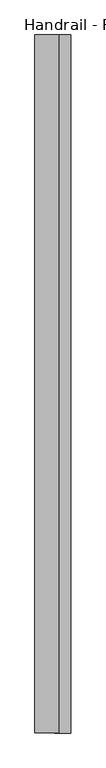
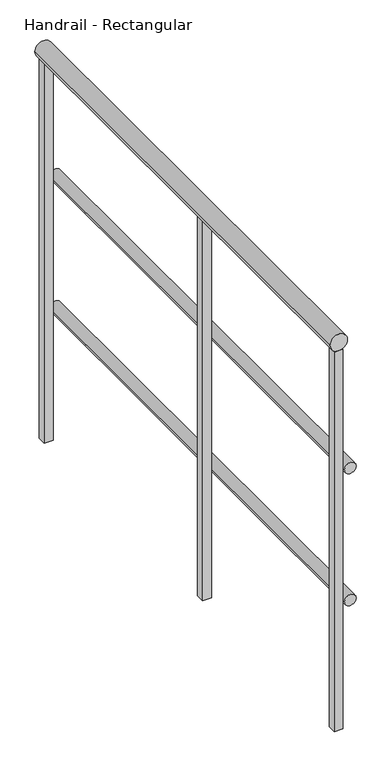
"""IFC4 building model written with IfcOpenShell, lengths in millimetres: railing geometry, Handrail - Rectangular."""

from ifc_helpers import new_model, si_unit, point, frame, frame_2d, origin, place, context, project, spatial, polyline, circle_curve, trimmed, segment, composite_curve, outline, extrude, source, transform, mapped, element, save


def handrail_rectangular_2b1cd781(model_context):
    return source(origin(), model_context, "Body", "SweptSolid", [
        extrude(outline(composite_curve([segment(trimmed(circle_curve(frame_2d((9740.9, -11393.4589563)), 12.7), [point((9740.9, -11380.7589563))], [point((9740.9, -11406.1589563))], False, "CARTESIAN"), True, "CONTINUOUS"), segment(trimmed(circle_curve(frame_2d((9740.9, -11393.4589563)), 12.7), [point((9740.9, -11406.1589563))], [point((9740.9, -11380.7589563))], False, "CARTESIAN"), True, "CONTINUOUS")], self_intersect=False)), frame((0.0, 10624.0316867, 0.0), z_axis=(0.0, 1.0, 0.0), x_axis=(0.0, 0.0, 1.0)), (0.0, 0.0, 1.0), 1117.6),
        extrude(outline(composite_curve([segment(trimmed(circle_curve(frame_2d((9436.1, -11393.4589563)), 12.7), [point((9436.1, -11380.7589563))], [point((9436.1, -11406.1589563))], False, "CARTESIAN"), True, "CONTINUOUS"), segment(trimmed(circle_curve(frame_2d((9436.1, -11393.4589563)), 12.7), [point((9436.1, -11406.1589563))], [point((9436.1, -11380.7589563))], False, "CARTESIAN"), True, "CONTINUOUS")], self_intersect=False)), frame((0.0, 10624.0316867, 0.0), z_axis=(0.0, 1.0, 0.0), x_axis=(0.0, 0.0, 1.0)), (0.0, 0.0, 1.0), 1117.6),
        extrude(outline(composite_curve([segment(trimmed(circle_curve(frame_2d((10039.35, -11418.8589563)), 19.05), [point((10039.35, -11399.8089563))], [point((10039.35, -11437.9089563))], False, "CARTESIAN"), True, "CONTINUOUS"), segment(trimmed(circle_curve(frame_2d((10039.35, -11418.8589563)), 19.05), [point((10039.35, -11437.9089563))], [point((10039.35, -11399.8089563))], False, "CARTESIAN"), True, "CONTINUOUS")], self_intersect=False)), frame((0.0, 10624.0316867, 0.0), z_axis=(0.0, 1.0, 0.0), x_axis=(0.0, 0.0, 1.0)), (0.0, 0.0, 1.0), 1117.6),
        extrude(outline(polyline([(-11428.3839563, 11141.5566867), (-11409.3339563, 11141.5566867), (-11409.3339563, 11122.5066867), (-11428.3839563, 11122.5066867), (-11428.3839563, 11141.5566867)])), frame((0.0, 0.0, 9144.0), z_axis=(0.0, 0.0, 1.0), x_axis=(1.0, 0.0, 0.0)), (0.0, 0.0, 1.0), 876.3),
        extrude(outline(polyline([(-11428.3839563, 10643.0816867), (-11409.3339563, 10643.0816867), (-11409.3339563, 10624.0316867), (-11428.3839563, 10624.0316867), (-11428.3839563, 10643.0816867)])), frame((0.0, 0.0, 9144.0), z_axis=(0.0, 0.0, 1.0), x_axis=(1.0, 0.0, 0.0)), (0.0, 0.0, 1.0), 876.3),
        extrude(outline(polyline([(-11428.3839563, 11741.6316867), (-11409.3339563, 11741.6316867), (-11409.3339563, 11722.5816867), (-11428.3839563, 11722.5816867), (-11428.3839563, 11741.6316867)])), frame((0.0, 0.0, 9144.0), z_axis=(0.0, 0.0, 1.0), x_axis=(1.0, 0.0, 0.0)), (0.0, 0.0, 1.0), 876.3),
    ])


if __name__ == "__main__":
    model = new_model("IFC4")
    model_context = context("Model", 3, world=origin())
    ifc_project = project(units=[si_unit("LENGTHUNIT", "METRE", prefix="MILLI")], contexts=[model_context])
    site = spatial("IfcSite", under=ifc_project)
    building = spatial("IfcBuilding", under=site)
    placement = place(None, origin())
    handrail_rectangular_shape = handrail_rectangular_2b1cd781(model_context)
    element("IfcRailing", 1, ObjectType="Handrail - Rectangular", at=placement, inside=building, context=model_context, shape_type="MappedRepresentation", body=[
        mapped(handrail_rectangular_shape, transform((0.0, 0.0, 0.0), x_axis=(1.0, 0.0, 0.0), y_axis=(0.0, 1.0, 0.0), z_axis=(0.0, 0.0, 1.0))),
    ])
    save(model, "model.ifc")
